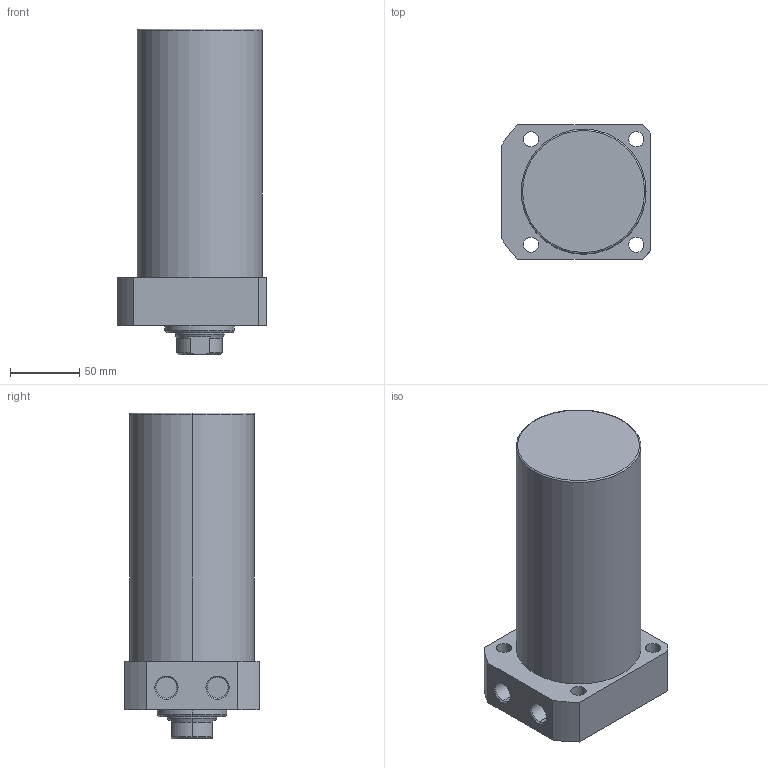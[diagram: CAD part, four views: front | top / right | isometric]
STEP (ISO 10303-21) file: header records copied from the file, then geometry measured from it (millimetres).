
FILE_DESCRIPTION (( 'STEP AP203' ), '1' );
FILE_NAME ('CLLR-090CA-135.STEP', '2019-12-18T06:28:53', ( '' ), ( '' ), 'SwSTEP 2.0', 'SolidWorks 2015', '' );
FILE_SCHEMA (( 'CONFIG_CONTROL_DESIGN' ));
Length unit declared in the file: millimetre
Products named in the file (1): CLLR-090CA-135
Bounding box: 108 x 97 x 235 mm (x, y, z)
Volume: 1487654.2 mm3; surface area: 95698.5 mm2
Topology: 1 solids, 1 shells, 65 faces, 151 edges, 94 vertices
Faces by surface type: cylinder 29, plane 19, cone 15, torus 2
Entity records: 1977 total; most frequent: CARTESIAN_POINT 357, DIRECTION 350, ORIENTED_EDGE 298, EDGE_CURVE 149, AXIS2_PLACEMENT_3D 143, VERTEX_POINT 94, EDGE_LOOP 81, CIRCLE 77
